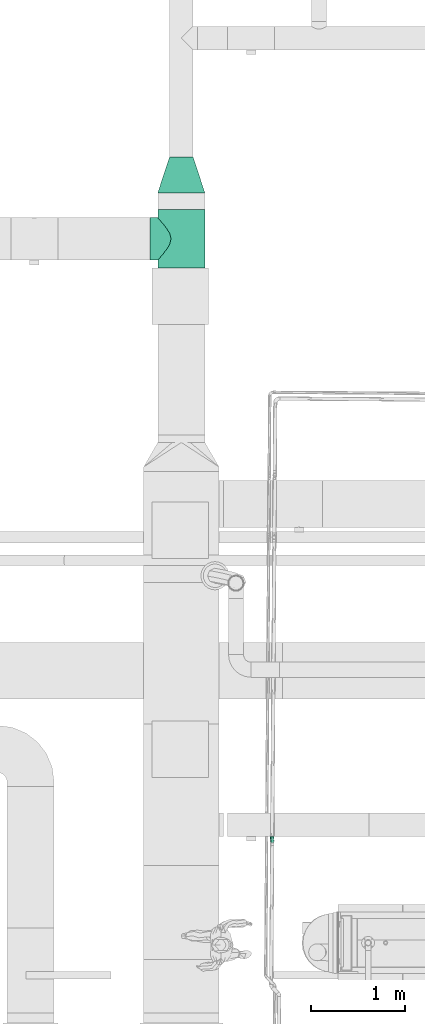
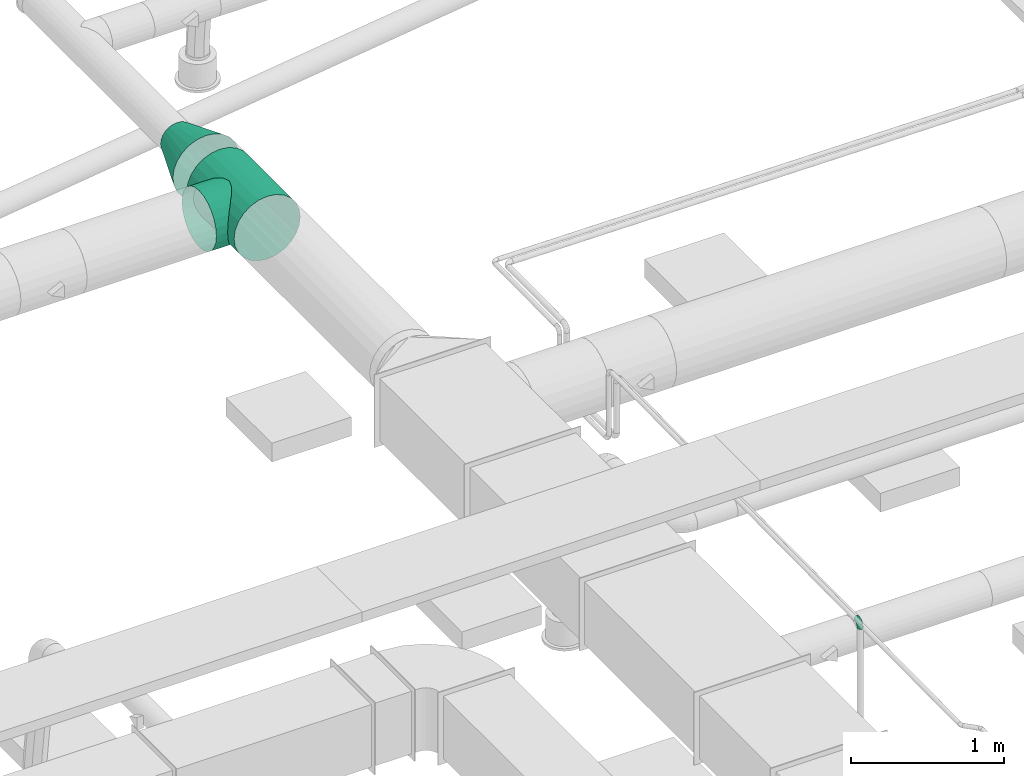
# One storey, part 313 of 374: 2 flow fittings, 1 flow segment.
"""IFC2X3 building model written with IfcOpenShell, lengths in metres."""

from ifc_helpers import new_model, si_unit, direction, origin, place, context, subcontext, project, spatial, open_shell, surface_model, source, transform, mapped, element, save


model = new_model("IFC2X3")

# Units and contexts
model_context = context("Model", 3, precision=1e-05, world=origin(), true_north=direction((-0.4480736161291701, 0.8939966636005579)))
body_context = subcontext(model_context, "Body", "Model", "MODEL_VIEW")
ifc_project = project(units=[si_unit("LENGTHUNIT", "METRE"), si_unit("AREAUNIT", "SQUARE_METRE"), si_unit("VOLUMEUNIT", "CUBIC_METRE"), si_unit("PLANEANGLEUNIT", "RADIAN"), si_unit("THERMODYNAMICTEMPERATUREUNIT", "KELVIN"), si_unit("MASSUNIT", "GRAM", prefix="KILO"), si_unit("TIMEUNIT", "SECOND")], contexts=[model_context])

# Site, building, storey
site_placement = place(None, origin())
site = spatial("IfcSite", under=ifc_project, at=site_placement, Name="Site 1", CompositionType="ELEMENT")
building_placement = place(site_placement, origin())
building = spatial("IfcBuilding", under=site, at=building_placement, Name="Undefined", CompositionType="ELEMENT")
storey_placement = place(building_placement, origin())
storey = spatial("IfcBuildingStorey", under=building, at=storey_placement, Name="Rez de chauss\x8ee", CompositionType="ELEMENT", Elevation=0.0)

# Flow fittings
shared_shape_1 = source(origin(), body_context, "Body", "SurfaceModel", [
    surface_model("IfcFaceBasedSurfaceModel", [(0.0, 0.0652630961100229, -3.552713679e-15), (0.0, 0.0, 0.0), (0.620000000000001, 0.0, 1.776356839e-15), (0.620000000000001, 0.0652630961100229, 1.776356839e-15), (0.0, -0.06303931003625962, -0.01689133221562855), (0.620000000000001, -0.06303931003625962, -0.016891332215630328), (0.0, -0.11955880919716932, -0.049522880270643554), (0.6199999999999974, -0.11955880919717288, -0.04952288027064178), (0.0, -0.1657067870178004, -0.09567085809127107), (0.6199999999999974, -0.16570678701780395, -0.09567085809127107), (0.0, -0.1983383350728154, -0.15219035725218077), (0.620000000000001, -0.19833833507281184, -0.152190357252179), (0.0, -0.2152296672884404, -0.2152296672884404), (0.620000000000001, -0.2152296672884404, -0.21522966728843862), (0.0, -0.2152296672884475, -0.28049276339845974), (0.620000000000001, -0.2152296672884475, -0.2804927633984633), (0.0, -0.1983383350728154, -0.3435320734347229), (0.6199999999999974, -0.19833833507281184, -0.3435320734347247), (0.0, -0.1657067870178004, -0.4000515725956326), (0.6199999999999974, -0.16570678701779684, -0.40005157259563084), (0.0, -0.11955880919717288, -0.44619955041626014), (0.620000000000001, -0.11955880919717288, -0.44619955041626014), (0.0, -0.06303931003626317, -0.47883109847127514), (0.620000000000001, -0.06303931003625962, -0.47883109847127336), (0.0, -7.105427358e-15, -0.49572243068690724), (0.620000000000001, -7.105427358e-15, -0.4957224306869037), (0.0, 0.0652630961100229, -0.4957224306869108), (0.620000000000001, 0.0652630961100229, -0.4957224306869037), (0.0, 0.12830240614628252, -0.47883109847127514), (0.620000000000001, 0.12830240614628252, -0.47883109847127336), (0.0, 0.18482190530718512, -0.4461995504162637), (0.620000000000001, 0.18482190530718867, -0.44619955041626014), (0.0, 0.2309698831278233, -0.4000515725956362), (0.620000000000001, 0.23096988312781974, -0.40005157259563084), (0.0, 0.26360143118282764, -0.34353207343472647), (0.620000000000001, 0.26360143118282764, -0.3435320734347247), (0.0, 0.2804927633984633, -0.2804927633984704), (0.6199999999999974, 0.2804927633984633, -0.2804927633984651), (0.0, 0.28049276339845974, -0.2152296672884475), (0.620000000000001, 0.2804927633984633, -0.21522966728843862), (0.0, 0.2636014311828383, -0.15219035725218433), (0.620000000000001, 0.26360143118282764, -0.152190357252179), (0.0, 0.2309698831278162, -0.09567085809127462), (0.620000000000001, 0.23096988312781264, -0.09567085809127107), (0.0, 0.18482190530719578, -0.049522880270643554), (0.620000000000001, 0.18482190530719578, -0.049522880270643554), (0.0, 0.12830240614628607, -0.016891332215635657), (0.620000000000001, 0.12830240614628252, -0.016891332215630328), (0.5350000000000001, 0.2804927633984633, -0.2804927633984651), (0.52733331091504, 0.2660734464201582, -0.33733121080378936), (0.5273333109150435, 0.35716447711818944, -0.34932357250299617), (0.5350000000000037, 0.3647655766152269, -0.29158748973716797), (0.5048557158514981, 0.2392944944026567, -0.3885396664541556), (0.5048557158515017, 0.3500813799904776, -0.40312503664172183), (0.46909902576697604, 0.20305578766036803, -0.4307698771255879), (0.46909902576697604, 0.34399898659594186, -0.4493254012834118), (0.42249999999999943, 0.16248237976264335, -0.4614935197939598), (0.422500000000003, 0.3393318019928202, -0.4847761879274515), (0.3682342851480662, 0.1267634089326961, -0.4794625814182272), (0.3682342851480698, 0.3363978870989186, -0.50706148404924), (0.3099999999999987, 0.11130335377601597, -0.48516007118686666), (0.3100000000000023, 0.3353971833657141, -0.5146625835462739), (0.2517657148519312, 0.1267634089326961, -0.4794625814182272), (0.2517657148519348, 0.3363978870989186, -0.50706148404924), (0.19750000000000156, 0.16248237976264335, -0.4614935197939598), (0.19750000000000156, 0.3393318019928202, -0.4847761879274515), (0.15090097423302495, 0.20305578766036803, -0.4307698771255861), (0.1509009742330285, 0.34399898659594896, -0.4493254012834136), (0.11514428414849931, 0.2392944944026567, -0.3885396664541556), (0.11514428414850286, 0.3500813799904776, -0.40312503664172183), (0.09266668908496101, 0.2660734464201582, -0.3373312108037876), (0.09266668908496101, 0.35716447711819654, -0.34932357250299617), (0.08500000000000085, 0.2804927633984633, -0.2804927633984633), (0.08500000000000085, 0.364765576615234, -0.29158748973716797), (0.09266668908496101, 0.281275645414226, -0.22185904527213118), (0.09266668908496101, 0.37236667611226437, -0.23385140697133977), (0.11514428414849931, 0.2686628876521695, -0.16546457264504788), (0.11514428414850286, 0.3794497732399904, -0.1800499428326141), (0.15090097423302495, 0.24458896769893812, -0.11529405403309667), (0.1509009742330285, 0.38553216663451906, -0.13384957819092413), (0.19750000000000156, 0.21334992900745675, -0.0751161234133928), (0.19750000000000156, 0.3901993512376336, -0.09839879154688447), (0.2517657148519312, 0.18349878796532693, -0.048514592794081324), (0.2517657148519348, 0.3931332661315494, -0.07611349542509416), (0.3099999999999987, 0.17004014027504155, -0.03900988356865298), (0.3100000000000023, 0.3941339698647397, -0.06851239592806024), (0.3682342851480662, 0.18349878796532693, -0.048514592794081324), (0.3682342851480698, 0.3931332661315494, -0.07611349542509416), (0.42249999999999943, 0.21334992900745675, -0.0751161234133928), (0.422500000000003, 0.3901993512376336, -0.09839879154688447), (0.46909902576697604, 0.24458896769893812, -0.11529405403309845), (0.46909902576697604, 0.38553216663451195, -0.13384957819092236), (0.5048557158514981, 0.2686628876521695, -0.16546457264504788), (0.5048557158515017, 0.3794497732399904, -0.1800499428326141), (0.52733331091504, 0.281275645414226, -0.22185904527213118), (0.5273333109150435, 0.37236667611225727, -0.233851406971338)], [open_shell([[[0, 1, 2, 3]], [[1, 4, 5, 2]], [[4, 6, 7, 5]], [[6, 8, 9, 7]], [[8, 10, 11, 9]], [[10, 12, 13, 11]], [[12, 14, 15, 13]], [[14, 16, 17, 15]], [[16, 18, 19, 17]], [[18, 20, 21, 19]], [[20, 22, 23, 21]], [[22, 24, 25, 23]], [[24, 26, 27, 25]], [[26, 28, 29, 27]], [[28, 30, 31, 29]], [[30, 32, 33, 31]], [[32, 34, 35, 33]], [[34, 36, 37, 35]], [[36, 38, 39, 37]], [[38, 40, 41, 39]], [[40, 42, 43, 41]], [[42, 44, 45, 43]], [[44, 46, 47, 45]], [[46, 0, 3, 47]], [[48, 49, 50, 51]], [[49, 52, 53, 50]], [[52, 54, 55, 53]], [[54, 56, 57, 55]], [[56, 58, 59, 57]], [[58, 60, 61, 59]], [[60, 62, 63, 61]], [[62, 64, 65, 63]], [[64, 66, 67, 65]], [[66, 68, 69, 67]], [[68, 70, 71, 69]], [[70, 72, 73, 71]], [[72, 74, 75, 73]], [[74, 76, 77, 75]], [[76, 78, 79, 77]], [[78, 80, 81, 79]], [[80, 82, 83, 81]], [[82, 84, 85, 83]], [[84, 86, 87, 85]], [[86, 88, 89, 87]], [[88, 90, 91, 89]], [[90, 92, 93, 91]], [[92, 94, 95, 93]], [[94, 48, 51, 95]]])]),
])
flow_fitting_1_placement = place(storey_placement, origin())
element("IfcFlowFitting", 1, at=flow_fitting_1_placement, inside=storey, Name="Pièce en té 90°", ObjectType="Pièce en té 90°", context=body_context, shape_type="MappedRepresentation", body=[
    mapped(shared_shape_1, transform((51.9996998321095, 20.21688817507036, 4.041481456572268), x_axis=(0.0, 1.0, 0.0), y_axis=(-0.9914448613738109, 0.0, 0.1305261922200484), z_axis=(0.1305261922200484, 0.0, 0.9914448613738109))),
])
shared_shape_2 = source(origin(), body_context, "Body", "SurfaceModel", [
    surface_model("IfcFaceBasedSurfaceModel", [(0.0026745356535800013, 0.06520827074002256, 0.0), (0.0, 0.0, 0.0), (0.3981318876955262, 0.0, 0.0), (0.399469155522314, 0.032604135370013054, 7.105427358e-15), (0.0026745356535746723, -0.06320200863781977, -0.01605069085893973), (0.3994691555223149, -0.03160100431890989, -0.008025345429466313), (0.01051587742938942, -0.12009064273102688, -0.04705824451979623), (0.40338982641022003, -0.06004532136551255, -0.02352912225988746), (0.022989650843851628, -0.16678903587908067, -0.09090954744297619), (0.409626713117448, -0.08339451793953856, -0.04545477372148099), (0.03924578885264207, -0.20011476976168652, -0.14461620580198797), (0.4177547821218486, -0.10005738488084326, -0.07230810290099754), (0.05817646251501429, -0.21779675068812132, -0.20451819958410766), (0.4272201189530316, -0.10889837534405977, -0.10225909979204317), (0.07849157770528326, -0.2186299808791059, -0.26653330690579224), (0.43737767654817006, -0.10931499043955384, -0.13326665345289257), (0.09880669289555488, -0.20255767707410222, -0.32643530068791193), (0.4475352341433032, -0.10127883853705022, -0.1632176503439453), (0.11773736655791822, -0.17067514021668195, -0.3801419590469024), (0.4570005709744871, -0.08533757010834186, -0.19007097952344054), (0.13399350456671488, -0.12515511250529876, -0.42399326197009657), (0.4651286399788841, -0.06257755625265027, -0.21199663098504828), (0.14646727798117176, -0.06909970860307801, -0.45500081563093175), (0.47136552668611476, -0.03454985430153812, -0.22750040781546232), (0.1543086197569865, -0.0063290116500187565, -0.4710515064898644), (0.47528619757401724, -0.0031645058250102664, -0.23552575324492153), (0.15698315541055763, 0.0588792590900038, -0.47105150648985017), (0.4766234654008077, 0.029439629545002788, -0.23552575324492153), (0.15430861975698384, 0.12208126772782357, -0.45500081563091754), (0.47528619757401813, 0.061040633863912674, -0.22750040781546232), (0.1464672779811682, 0.17896990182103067, -0.42399326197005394), (0.4713655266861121, 0.08948495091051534, -0.21199663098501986), (0.13399350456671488, 0.22566829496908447, -0.3801419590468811), (0.4651286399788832, 0.11283414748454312, -0.19007097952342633), (0.11773736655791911, 0.2589940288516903, -0.3264353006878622), (0.457000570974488, 0.1294970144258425, -0.1632176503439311), (0.09880669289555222, 0.27667600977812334, -0.2665333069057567), (0.44753523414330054, 0.13833800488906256, -0.13326665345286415), (0.07849157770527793, 0.2775092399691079, -0.20451819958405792), (0.4373776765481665, 0.13875461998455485, -0.10225909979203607), (0.05817646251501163, 0.26143693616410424, -0.14461620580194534), (0.427220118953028, 0.13071846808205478, -0.07230810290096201), (0.03924578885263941, 0.22955439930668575, -0.09090954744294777), (0.417754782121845, 0.11477719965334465, -0.04545477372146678), (0.022989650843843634, 0.18403437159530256, -0.047058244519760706), (0.4096267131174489, 0.09201718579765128, -0.023529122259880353), (0.010515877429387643, 0.12797896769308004, -0.016050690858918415), (0.40338982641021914, 0.06398948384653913, -0.008025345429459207)], [open_shell([[[0, 1, 2, 3]], [[1, 4, 5, 2]], [[4, 6, 7, 5]], [[6, 8, 9, 7]], [[8, 10, 11, 9]], [[10, 12, 13, 11]], [[12, 14, 15, 13]], [[14, 16, 17, 15]], [[16, 18, 19, 17]], [[18, 20, 21, 19]], [[20, 22, 23, 21]], [[22, 24, 25, 23]], [[24, 26, 27, 25]], [[26, 28, 29, 27]], [[28, 30, 31, 29]], [[30, 32, 33, 31]], [[32, 34, 35, 33]], [[34, 36, 37, 35]], [[36, 38, 39, 37]], [[38, 40, 41, 39]], [[40, 42, 43, 41]], [[42, 44, 45, 43]], [[44, 46, 47, 45]], [[46, 0, 3, 47]]])]),
])
flow_fitting_2_placement = place(storey_placement, origin())
element("IfcFlowFitting", 2, at=flow_fitting_2_placement, inside=storey, Name="Réduction conique", ObjectType="Réduction conique", context=body_context, shape_type="MappedRepresentation", body=[
    mapped(shared_shape_2, transform((52.17647652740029, 21.016888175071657, 3.7352952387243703), x_axis=(-0.3032681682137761, 0.9494341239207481, 0.08126046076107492), y_axis=(0.14307456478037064, -0.038941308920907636, 0.98894552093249), z_axis=(0.942103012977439, 0.31154200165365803, -0.1240302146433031))),
])

# Flow segment
shared_shape_3 = source(origin(), body_context, "Body", "SurfaceModel", [
    surface_model("IfcFaceBasedSurfaceModel", [(0.01806482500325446, 7.105427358e-15, 0.0), (0.017970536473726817, 0.005533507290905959, 0.0), (9.428852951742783e-05, 0.005533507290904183, 1.776356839e-15), (0.0, 0.0, 0.0), (-0.017172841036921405, 0.00613233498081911, -0.004587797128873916), (-0.01744928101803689, 0.0006051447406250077, -0.004636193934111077), (-0.03265412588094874, 0.007289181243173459, -0.013450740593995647), (-0.0330938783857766, 0.0017741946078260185, -0.013592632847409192), (-0.045294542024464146, 0.008925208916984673, -0.02598483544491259), (-0.045867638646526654, 0.0034274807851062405, -0.02625895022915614), (-0.054232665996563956, 0.010928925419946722, -0.041335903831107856), (-0.05490005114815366, 0.005452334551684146, -0.04177195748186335), (-0.05885937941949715, 0.013163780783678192, -0.05845779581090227), (-0.059575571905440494, 0.007710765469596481, -0.05907446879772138), (0.01769409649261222, 0.010875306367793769, -0.0014203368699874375), (0.00037072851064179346, 0.010875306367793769, -0.0014203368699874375), (-0.016362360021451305, 0.011455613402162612, -0.005866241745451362), (-0.03136483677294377, 0.012576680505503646, -0.014455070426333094), (-0.04361430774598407, 0.014162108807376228, -0.026601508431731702), (-0.05227599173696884, 0.016103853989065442, -0.0414777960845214), (-0.05675960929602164, 0.018269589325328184, -0.05807013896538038), (0.017254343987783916, 0.015661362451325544, -0.0041642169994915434), (0.0008104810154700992, 0.015661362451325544, -0.004164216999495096), (-0.01507307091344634, 0.016212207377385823, -0.008384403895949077), (-0.029313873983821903, 0.01727635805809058, -0.016537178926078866), (-0.04094144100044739, 0.01878129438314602, -0.02806694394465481), (-0.049163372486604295, 0.02062445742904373, -0.042187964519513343), (-0.05341935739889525, 0.02268023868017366, -0.05793791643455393), (0.016681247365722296, 0.01956551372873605, -0.008044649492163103), (0.001383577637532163, 0.01956551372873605, -0.008044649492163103), (-0.01339283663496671, 0.020077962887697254, -0.011970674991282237), (-0.026641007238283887, 0.021067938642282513, -0.01955517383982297), (-0.03745809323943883, 0.02246797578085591, -0.03028127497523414), (-0.04510692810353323, 0.0241826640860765, -0.04341801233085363), (-0.04906625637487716, 0.026095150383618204, -0.05807013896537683), (0.016013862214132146, 0.022321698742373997, -0.012797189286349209), (0.0020509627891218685, 0.022321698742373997, -0.012797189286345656), (-0.011436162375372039, 0.02278943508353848, -0.016380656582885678), (-0.023528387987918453, 0.02369303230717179, -0.023303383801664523), (-0.03340164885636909, 0.024970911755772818, -0.03309359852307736), (-0.040383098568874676, 0.026535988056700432, -0.04508411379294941), (-0.04399696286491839, 0.028281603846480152, -0.05845779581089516), (0.015297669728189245, 0.023742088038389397, -0.018097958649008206), (0.00276715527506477, 0.023742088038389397, -0.018097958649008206), (-0.009336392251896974, 0.024161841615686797, -0.021313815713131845), (-0.02018813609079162, 0.02497274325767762, -0.0275263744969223), (-0.029048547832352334, 0.02611953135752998, -0.03631225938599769), (-0.03531380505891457, 0.027524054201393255, -0.04707272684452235), (-0.0385569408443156, 0.02909059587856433, -0.05907446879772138), (0.014581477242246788, 0.023729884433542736, -0.02358571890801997), (0.0034833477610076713, 0.023729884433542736, -0.02358571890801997), (-0.007236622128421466, 0.024101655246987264, -0.026433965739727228), (-0.016847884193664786, 0.02481986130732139, -0.03193635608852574), (-0.02469544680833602, 0.02583555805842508, -0.03971791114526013), (-0.0302445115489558, 0.027079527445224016, -0.04924833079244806), (-0.03311691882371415, 0.02846699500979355, -0.059878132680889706), (0.013914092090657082, 0.02228591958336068, -0.02888648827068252), (0.004150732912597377, 0.022285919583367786, -0.028886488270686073), (-0.005279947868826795, 0.022612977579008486, -0.031392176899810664), (-0.013735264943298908, 0.023244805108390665, -0.03623279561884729), (-0.020639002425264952, 0.02413834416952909, -0.04307846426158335), (-0.025520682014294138, 0.025232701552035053, -0.051462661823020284), (-0.028047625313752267, 0.026453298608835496, -0.060814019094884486), (0.013340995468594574, 0.01950859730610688, -0.03363902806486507), (0.0047238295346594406, 0.01950859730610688, -0.033639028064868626), (-0.0035997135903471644, 0.019797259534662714, -0.035850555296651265), (-0.011062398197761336, 0.0203549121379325, -0.04012289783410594), (-0.017155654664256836, 0.021143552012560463, -0.04616490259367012), (-0.02146423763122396, 0.022109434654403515, -0.05356481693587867), (-0.02369452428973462, 0.023186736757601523, -0.06181834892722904), (0.012901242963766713, 0.015587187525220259, -0.037519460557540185), (0.005163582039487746, 0.015587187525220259, -0.03751946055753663), (-0.0023104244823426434, 0.015846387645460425, -0.03950526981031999), (-0.009011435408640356, 0.016347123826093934, -0.043341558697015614), (-0.01448278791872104, 0.017055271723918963, -0.048766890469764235), (-0.018351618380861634, 0.017922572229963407, -0.05541153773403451), (-0.02035427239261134, 0.018889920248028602, -0.06282267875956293), (0.012624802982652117, 0.010788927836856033, -0.040263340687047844), (0.005440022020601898, 0.010788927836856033, -0.0402633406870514), (-0.0014999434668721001, 0.011029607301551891, -0.04210725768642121), (-0.007722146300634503, 0.01149456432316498, -0.045669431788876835), (-0.012802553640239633, 0.012152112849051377, -0.05070710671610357), (-0.0163949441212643, 0.012957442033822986, -0.056876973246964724), (-0.018254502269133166, 0.013855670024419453, -0.06375856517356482), (0.012530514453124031, 0.005440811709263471, -0.041683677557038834), (0.005534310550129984, 0.0054408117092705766, -0.041683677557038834), (-0.0012235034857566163, 0.005675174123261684, -0.04347919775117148), (-0.007282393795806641, 0.006127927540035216, -0.046947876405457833), (-0.012229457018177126, 0.0067682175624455, -0.05185332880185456), (-0.015727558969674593, 0.007552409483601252, -0.05786125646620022), (-0.01753830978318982, 0.008427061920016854, -0.0645622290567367), (0.012624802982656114, -9.269558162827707e-05, -0.04168367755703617), (0.005440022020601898, -9.269558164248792e-05, -0.04168367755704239), (-0.0014999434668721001, 0.00014798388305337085, -0.0435275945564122), (-0.007722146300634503, 0.0006129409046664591, -0.047089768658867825), (-0.012802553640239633, 0.001270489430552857, -0.05212744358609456), (-0.0163949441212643, 0.002075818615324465, -0.058297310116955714), (-0.018254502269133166, 0.0029740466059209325, -0.06517890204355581), (0.012901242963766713, -0.005434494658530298, -0.0402633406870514), (0.005163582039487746, -0.005434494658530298, -0.040263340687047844), (-0.0023104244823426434, -0.005175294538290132, -0.0422491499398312), (-0.009011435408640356, -0.004674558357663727, -0.046085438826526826), (-0.01448278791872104, -0.0039664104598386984, -0.051510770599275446), (-0.018351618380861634, -0.0030991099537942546, -0.05815541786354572), (-0.02035427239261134, -0.0021317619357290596, -0.06556655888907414), (0.013340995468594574, -0.010220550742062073, -0.03751946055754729), (0.0047238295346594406, -0.010220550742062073, -0.03751946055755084), (-0.0035997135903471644, -0.009931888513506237, -0.03973098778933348), (-0.011062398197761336, -0.009374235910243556, -0.04400333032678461), (-0.017155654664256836, -0.00858559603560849, -0.05004533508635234), (-0.02146423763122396, -0.007619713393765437, -0.057445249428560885), (-0.02369452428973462, -0.006542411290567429, -0.06569878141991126), (0.013914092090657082, -0.01412470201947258, -0.03363902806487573), (0.004150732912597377, -0.014124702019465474, -0.033639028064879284), (-0.005279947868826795, -0.013797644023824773, -0.036144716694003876), (-0.013735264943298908, -0.013165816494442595, -0.0409853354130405), (-0.020639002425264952, -0.012272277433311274, -0.04783100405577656), (-0.025520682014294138, -0.011177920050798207, -0.05621520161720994), (-0.028047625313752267, -0.009957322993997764, -0.0655665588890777), (0.014581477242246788, -0.01688088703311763, -0.028886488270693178), (0.0034833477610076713, -0.01688088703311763, -0.028886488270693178), (-0.007236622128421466, -0.016509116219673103, -0.031734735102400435), (-0.016847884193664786, -0.015790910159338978, -0.03723712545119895), (-0.02469544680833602, -0.014775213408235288, -0.04501868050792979), (-0.0302445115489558, -0.01353124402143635, -0.054549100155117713), (-0.03311691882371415, -0.012143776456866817, -0.06517890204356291), (0.015297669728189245, -0.01830127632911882, -0.02358571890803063), (0.00276715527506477, -0.01830127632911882, -0.02358571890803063), (-0.009336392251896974, -0.01788152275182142, -0.026801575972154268), (-0.02018813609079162, -0.017070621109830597, -0.033014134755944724), (-0.029048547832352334, -0.01592383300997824, -0.04180001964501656), (-0.03531380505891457, -0.014519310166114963, -0.05256048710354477), (-0.0385569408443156, -0.012952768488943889, -0.06456222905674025), (0.016013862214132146, -0.01828907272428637, -0.018097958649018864), (0.0020509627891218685, -0.01828907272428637, -0.018097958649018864), (-0.011436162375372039, -0.01782133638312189, -0.021681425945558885), (-0.023528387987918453, -0.016917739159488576, -0.02860415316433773), (-0.03340164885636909, -0.01563985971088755, -0.038394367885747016), (-0.040383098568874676, -0.014074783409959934, -0.05038488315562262), (-0.04399696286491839, -0.012329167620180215, -0.06375856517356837), (0.016681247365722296, -0.01684510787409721, -0.012797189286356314), (0.001383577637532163, -0.01684510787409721, -0.012797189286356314), (-0.01339283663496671, -0.016332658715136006, -0.01672321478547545), (-0.026641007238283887, -0.015342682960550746, -0.02430771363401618), (-0.03745809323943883, -0.01394264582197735, -0.03503381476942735), (-0.04510692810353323, -0.01222795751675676, -0.04817055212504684), (-0.04906625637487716, -0.010315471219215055, -0.06282267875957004), (0.017254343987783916, -0.014067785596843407, -0.008044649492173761), (0.0008104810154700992, -0.014067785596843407, -0.008044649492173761), (-0.01507307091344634, -0.013516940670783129, -0.012264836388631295), (-0.029313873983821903, -0.012452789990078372, -0.020417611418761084), (-0.04094144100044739, -0.010947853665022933, -0.03194737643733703), (-0.049163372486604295, -0.009104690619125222, -0.04606839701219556), (-0.05341935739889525, -0.007048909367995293, -0.06181834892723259), (0.01769409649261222, -0.010146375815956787, -0.004164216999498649), (0.00037072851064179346, -0.010146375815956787, -0.004164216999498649), (-0.016362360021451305, -0.009566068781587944, -0.008610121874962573), (-0.03136483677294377, -0.008445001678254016, -0.017198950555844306), (-0.04361430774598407, -0.006859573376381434, -0.029345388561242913), (-0.05227599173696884, -0.00491782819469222, -0.04422167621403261), (-0.05675960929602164, -0.002752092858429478, -0.060814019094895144), (0.017970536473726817, -0.0053481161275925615, -0.0014203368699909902), (9.428852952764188e-05, -0.005348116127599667, -0.001420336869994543), (-0.017172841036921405, -0.004749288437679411, -0.006008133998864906), (-0.03265412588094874, -0.0035924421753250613, -0.014871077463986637), (-0.045294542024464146, -0.001956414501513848, -0.02740517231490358), (-0.05423266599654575, 4.730200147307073e-05, -0.042756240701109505), (-0.05885937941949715, 0.002282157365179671, -0.05987813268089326)], [open_shell([[[0, 1, 2, 3]], [[3, 2, 4, 5]], [[5, 4, 6, 7]], [[7, 6, 8, 9]], [[9, 8, 10, 11]], [[11, 10, 12, 13]], [[1, 14, 15, 2]], [[2, 15, 16, 4]], [[4, 16, 17, 6]], [[6, 17, 18, 8]], [[8, 18, 19, 10]], [[10, 19, 20, 12]], [[14, 21, 22, 15]], [[15, 22, 23, 16]], [[16, 23, 24, 17]], [[17, 24, 25, 18]], [[18, 25, 26, 19]], [[19, 26, 27, 20]], [[21, 28, 29, 22]], [[22, 29, 30, 23]], [[23, 30, 31, 24]], [[24, 31, 32, 25]], [[25, 32, 33, 26]], [[26, 33, 34, 27]], [[28, 35, 36, 29]], [[29, 36, 37, 30]], [[30, 37, 38, 31]], [[31, 38, 39, 32]], [[32, 39, 40, 33]], [[33, 40, 41, 34]], [[35, 42, 43, 36]], [[36, 43, 44, 37]], [[37, 44, 45, 38]], [[38, 45, 46, 39]], [[39, 46, 47, 40]], [[40, 47, 48, 41]], [[42, 49, 50, 43]], [[43, 50, 51, 44]], [[44, 51, 52, 45]], [[45, 52, 53, 46]], [[46, 53, 54, 47]], [[47, 54, 55, 48]], [[49, 56, 57, 50]], [[50, 57, 58, 51]], [[51, 58, 59, 52]], [[52, 59, 60, 53]], [[53, 60, 61, 54]], [[54, 61, 62, 55]], [[56, 63, 64, 57]], [[57, 64, 65, 58]], [[58, 65, 66, 59]], [[59, 66, 67, 60]], [[60, 67, 68, 61]], [[61, 68, 69, 62]], [[63, 70, 71, 64]], [[64, 71, 72, 65]], [[65, 72, 73, 66]], [[66, 73, 74, 67]], [[67, 74, 75, 68]], [[68, 75, 76, 69]], [[70, 77, 78, 71]], [[71, 78, 79, 72]], [[72, 79, 80, 73]], [[73, 80, 81, 74]], [[74, 81, 82, 75]], [[75, 82, 83, 76]], [[77, 84, 85, 78]], [[78, 85, 86, 79]], [[79, 86, 87, 80]], [[80, 87, 88, 81]], [[81, 88, 89, 82]], [[82, 89, 90, 83]], [[84, 91, 92, 85]], [[85, 92, 93, 86]], [[86, 93, 94, 87]], [[87, 94, 95, 88]], [[88, 95, 96, 89]], [[89, 96, 97, 90]], [[91, 98, 99, 92]], [[92, 99, 100, 93]], [[93, 100, 101, 94]], [[94, 101, 102, 95]], [[95, 102, 103, 96]], [[96, 103, 104, 97]], [[98, 105, 106, 99]], [[99, 106, 107, 100]], [[100, 107, 108, 101]], [[101, 108, 109, 102]], [[102, 109, 110, 103]], [[103, 110, 111, 104]], [[105, 112, 113, 106]], [[106, 113, 114, 107]], [[107, 114, 115, 108]], [[108, 115, 116, 109]], [[109, 116, 117, 110]], [[110, 117, 118, 111]], [[112, 119, 120, 113]], [[113, 120, 121, 114]], [[114, 121, 122, 115]], [[115, 122, 123, 116]], [[116, 123, 124, 117]], [[117, 124, 125, 118]], [[119, 126, 127, 120]], [[120, 127, 128, 121]], [[121, 128, 129, 122]], [[122, 129, 130, 123]], [[123, 130, 131, 124]], [[124, 131, 132, 125]], [[126, 133, 134, 127]], [[127, 134, 135, 128]], [[128, 135, 136, 129]], [[129, 136, 137, 130]], [[130, 137, 138, 131]], [[131, 138, 139, 132]], [[133, 140, 141, 134]], [[134, 141, 142, 135]], [[135, 142, 143, 136]], [[136, 143, 144, 137]], [[137, 144, 145, 138]], [[138, 145, 146, 139]], [[140, 147, 148, 141]], [[141, 148, 149, 142]], [[142, 149, 150, 143]], [[143, 150, 151, 144]], [[144, 151, 152, 145]], [[145, 152, 153, 146]], [[147, 154, 155, 148]], [[148, 155, 156, 149]], [[149, 156, 157, 150]], [[150, 157, 158, 151]], [[151, 158, 159, 152]], [[152, 159, 160, 153]], [[154, 161, 162, 155]], [[155, 162, 163, 156]], [[156, 163, 164, 157]], [[157, 164, 165, 158]], [[158, 165, 166, 159]], [[159, 166, 167, 160]], [[161, 0, 3, 162]], [[162, 3, 5, 163]], [[163, 5, 7, 164]], [[164, 7, 9, 165]], [[165, 9, 11, 166]], [[166, 11, 13, 167]]])]),
])
flow_segment_placement = place(storey_placement, origin())
element("IfcFlowSegment", 3, at=flow_segment_placement, inside=storey, Name="Tube coudé", ObjectType="Tube coudé", context=body_context, shape_type="MappedRepresentation", body=[
    mapped(shared_shape_3, transform((52.8993588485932, 14.12015850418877, 3.975050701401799), x_axis=(-0.000911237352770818, -0.1305230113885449, -0.9914448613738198), y_axis=(0.9924604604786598, 0.12139536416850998, -0.01689378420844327), z_axis=(0.12256183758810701, -0.9839852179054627, 0.12942830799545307))),
])

save(model, "model.ifc")
